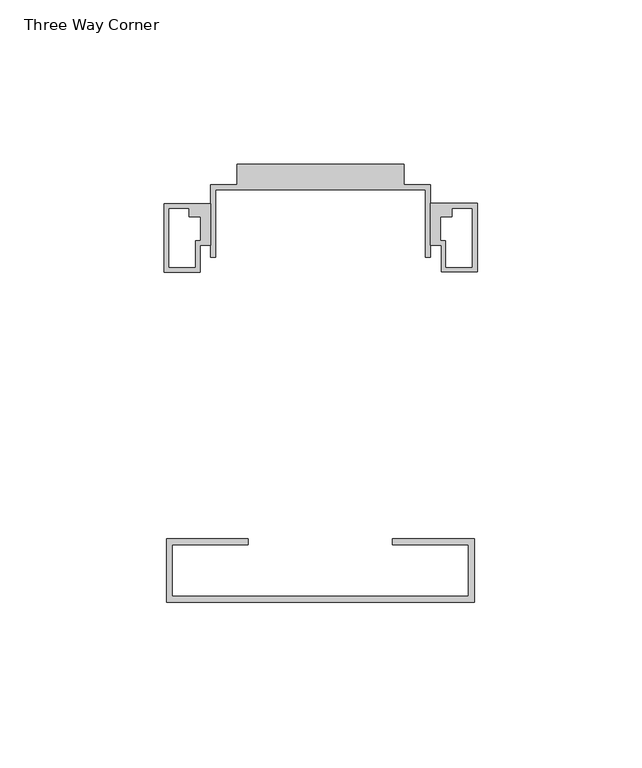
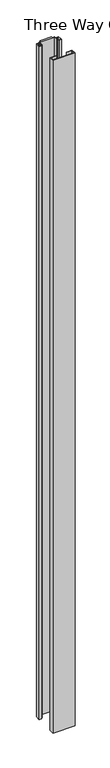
"""IFC4 building model written with IfcOpenShell, lengths in millimetres: proxy geometry, Connection-Corner-Teknion-OptosLP-Three_Way_FZCD3_B : Three Way Corner."""

from ifc_helpers import new_model, si_unit, origin, origin_with_axes, place, context, project, spatial, polyline, outline, extrude, source, transform, mapped, element, save


def three_way_corner_6a6f1a06(model_context):
    return source(origin(), model_context, "Body", "SweptSolid", [
        extrude(outline(polyline([(33.5280001, 71.2680001), (47.950226, 71.2680001), (47.950226, 50.3892045), (36.9266264, 50.3892045), (36.9266264, 58.5680049), (33.5280001, 58.5680049), (33.5280001, 71.2680001)]), holes=[polyline([(46.2239384, 69.6595002), (40.2803383, 69.6595002), (40.2803383, 67.1195005), (36.7243364, 67.1195005), (36.7243364, 60.0075003), (38.2483378, 60.0075003), (38.2483378, 51.8287), (46.2239384, 51.8287), (46.2239384, 69.6595002)])]), origin_with_axes(), (0.0, 0.0, 1.0), 3048.0),
        extrude(outline(polyline([(-47.7479361, 50.3047), (-47.7479361, 71.1834997), (-33.5280001, 71.1834997), (-33.5280001, 58.4835), (-36.7243364, 58.4835), (-36.7243364, 50.3047), (-47.7479361, 50.3047)]), holes=[polyline([(-46.2239384, 69.6595002), (-46.2239384, 51.8287), (-38.2483378, 51.8287), (-38.2483378, 60.0075003), (-36.7243364, 60.0075003), (-36.7243364, 67.1195005), (-40.2803383, 67.1195005), (-40.2803383, 69.6595002), (-46.2239384, 69.6595002)])]), origin_with_axes(), (0.0, 0.0, 1.0), 3048.0),
        extrude(outline(polyline([(25.3999997, 76.9156185), (33.5280001, 76.9156185), (33.5280001, 54.8176184), (32.0039988, 54.8176184), (32.0039988, 75.3916181), (-32.0039988, 75.3916181), (-32.0039988, 54.8176185), (-33.5280001, 54.8176185), (-33.5280001, 76.9156185), (-25.3999997, 76.9156185), (-25.3999997, 83.2656171), (25.3999997, 83.2656171), (25.3999997, 76.9156185)])), origin_with_axes(), (0.0, 0.0, 1.0), 3048.0),
        extrude(outline(polyline([(46.9899997, -31.0007033), (46.9899997, -50.3046994), (-46.9899997, -50.3046994), (-46.9899997, -31.0007033), (-22.0218003, -31.0007033), (-22.0218003, -32.7786986), (-45.2120006, -32.7786986), (-45.2120006, -48.5267003), (45.2120006, -48.5267003), (45.2120006, -32.7786986), (22.0218, -32.7786986), (22.0218, -31.0007033), (46.9899997, -31.0007033)])), origin_with_axes(), (0.0, 0.0, 1.0), 3048.0),
    ])


if __name__ == "__main__":
    model = new_model("IFC4")
    model_context = context("Model", 3, world=origin())
    ifc_project = project(units=[si_unit("LENGTHUNIT", "METRE", prefix="MILLI")], contexts=[model_context])
    site = spatial("IfcSite", under=ifc_project)
    building = spatial("IfcBuilding", under=site)
    placement = place(None, origin())
    three_way_corner_shape = three_way_corner_6a6f1a06(model_context)
    element("IfcBuildingElementProxy", 1, Name="Connection-Corner-Teknion-OptosLP-Three_Way_FZCD3_B : Three Way Corner", ObjectType="Connection-Corner-Teknion-OptosLP-Three_Way_FZCD3_B : Three Way Corner", at=placement, inside=building, context=model_context, shape_type="MappedRepresentation", body=[
        mapped(three_way_corner_shape, transform((0.0, 0.0, 0.0), x_axis=(1.0, 0.0, 0.0), y_axis=(0.0, 1.0, 0.0), z_axis=(0.0, 0.0, 1.0))),
    ])
    save(model, "model.ifc")
